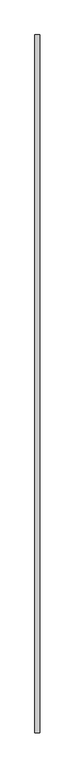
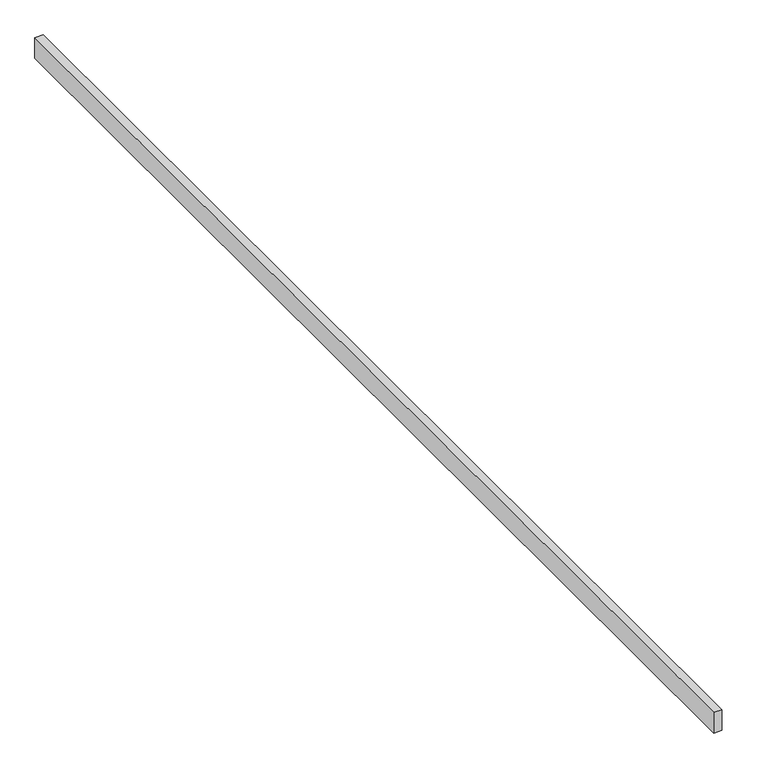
"""IFC4 building model written with IfcOpenShell, lengths in millimetres: proxy geometry, Modelos genéricos 24 : Modelos genéricos 1."""

from ifc_helpers import new_model, si_unit, frame, origin, place, context, project, spatial, polyline, outline, extrude, source, transform, mapped, element, save


def generic_models_2621aa3c(model_context):
    return source(origin(), model_context, "Body", "SweptSolid", [
        extrude(outline(polyline([(-9026.5527533, 6228.6238165), (-8966.5527533, 6228.6238165), (-8966.5527533, -2331.3761835), (-9026.5527533, -2331.3761835), (-9026.5527533, 6228.6238165)])), frame((0.0, 0.0, 3000.0), z_axis=(0.0, 0.0, 1.0), x_axis=(1.0, 0.0, 0.0)), (0.0, 0.0, 1.0), 160.0),
    ])


if __name__ == "__main__":
    model = new_model("IFC4")
    model_context = context("Model", 3, world=origin())
    ifc_project = project(units=[si_unit("LENGTHUNIT", "METRE", prefix="MILLI")], contexts=[model_context])
    site = spatial("IfcSite", under=ifc_project)
    building = spatial("IfcBuilding", under=site)
    placement = place(None, origin())
    generic_models_shape = generic_models_2621aa3c(model_context)
    element("IfcBuildingElementProxy", 1, Name="Modelos genéricos 24 : Modelos genéricos 1", ObjectType="Modelos genéricos 24 : Modelos genéricos 1", at=placement, inside=building, context=model_context, shape_type="MappedRepresentation", body=[
        mapped(generic_models_shape, transform((0.0, 0.0, 0.0), x_axis=(1.0, 0.0, 0.0), y_axis=(0.0, 1.0, 0.0), z_axis=(0.0, 0.0, 1.0))),
    ])
    save(model, "model.ifc")
